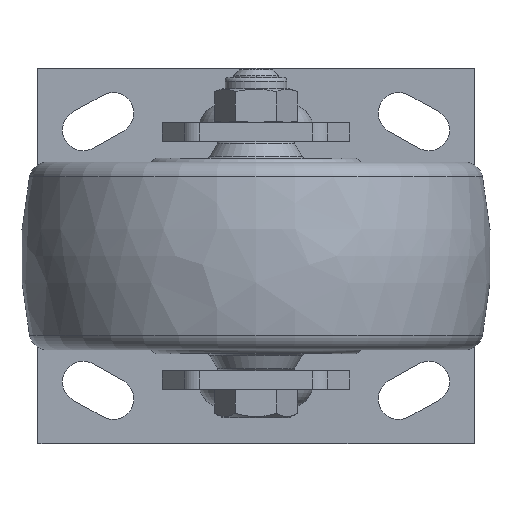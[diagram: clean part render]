
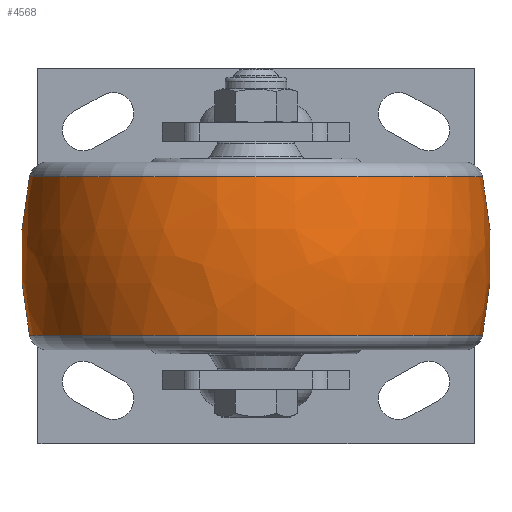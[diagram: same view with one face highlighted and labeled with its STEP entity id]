
A CAD part, front view. The second image highlights one B-rep face of the part: STEP entity #4568.
In plain terms, the highlighted free-form (B-spline) face has degree [3, 3] with [7, 4] control points.
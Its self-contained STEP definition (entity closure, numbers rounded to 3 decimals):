
#3874=CARTESIAN_POINT('',(0.,-37.5,0.));
#3875=DIRECTION('',(0.,0.,1.));
#3876=DIRECTION('',(0.211,0.978,0.));
#3877=AXIS2_PLACEMENT_3D('',#3874,#3875,#3876);
#3879=CARTESIAN_POINT('',(0.,37.5,0.));
#3880=DIRECTION('',(0.,0.,-1.));
#3881=DIRECTION('',(0.211,-0.978,0.));
#3882=AXIS2_PLACEMENT_3D('',#3879,#3880,#3881);
#3884=CARTESIAN_POINT('',(21.053,0.,0.));
#3885=DIRECTION('',(-1.,0.,0.));
#3886=DIRECTION('',(0.,1.,0.));
#3887=AXIS2_PLACEMENT_3D('',#3884,#3885,#3886);
#3899=CARTESIAN_POINT('',(-21.053,0.,0.));
#3900=DIRECTION('',(-1.,0.,0.));
#3901=DIRECTION('',(0.,1.,0.));
#3902=AXIS2_PLACEMENT_3D('',#3899,#3900,#3901);
#4371=CARTESIAN_POINT('',(21.053,60.259,0.));
#4372=CARTESIAN_POINT('',(-21.053,60.259,0.));
#4373=VERTEX_POINT('',#4371);
#4374=VERTEX_POINT('',#4372);
#4431=CARTESIAN_POINT('',(21.053,-60.259,
0.));
#4432=CARTESIAN_POINT('',(-21.053,-60.259,
0.));
#4433=VERTEX_POINT('',#4431);
#4434=VERTEX_POINT('',#4432);
#4531=CARTESIAN_POINT('',(-21.881,-59.958,
3.772));
#4532=CARTESIAN_POINT('',(-7.414,-63.196,
3.976));
#4533=CARTESIAN_POINT('',(7.414,-63.196,3.976));
#4534=CARTESIAN_POINT('',(21.881,-59.958,3.772));
#4535=CARTESIAN_POINT('',(-21.881,-62.28,
-33.126));
#4536=CARTESIAN_POINT('',(-7.414,-65.643,
-34.915));
#4537=CARTESIAN_POINT('',(7.414,-65.643,
-34.915));
#4538=CARTESIAN_POINT('',(21.881,-62.28,
-33.126));
#4539=CARTESIAN_POINT('',(-21.881,-36.971,
-60.077));
#4540=CARTESIAN_POINT('',(-7.414,-38.968,
-63.321));
#4541=CARTESIAN_POINT('',(7.414,-38.968,
-63.321));
#4542=CARTESIAN_POINT('',(21.881,-36.971,
-60.077));
#4543=CARTESIAN_POINT('',(-21.881,0.,
-60.077));
#4544=CARTESIAN_POINT('',(-7.414,0.,
-63.321));
#4545=CARTESIAN_POINT('',(7.414,0.,
-63.321));
#4546=CARTESIAN_POINT('',(21.881,0.,
-60.077));
#4547=CARTESIAN_POINT('',(-21.881,36.971,
-60.077));
#4548=CARTESIAN_POINT('',(-7.414,38.968,
-63.321));
#4549=CARTESIAN_POINT('',(7.414,38.968,-63.321));
#4550=CARTESIAN_POINT('',(21.881,36.971,-60.077));
#4551=CARTESIAN_POINT('',(-21.881,62.28,
-33.126));
#4552=CARTESIAN_POINT('',(-7.414,65.643,
-34.915));
#4553=CARTESIAN_POINT('',(7.414,65.643,-34.915));
#4554=CARTESIAN_POINT('',(21.881,62.28,-33.126));
#4555=CARTESIAN_POINT('',(-21.881,59.958,3.772));
#4556=CARTESIAN_POINT('',(-7.414,63.196,3.976));
#4557=CARTESIAN_POINT('',(7.414,63.196,3.976));
#4558=CARTESIAN_POINT('',(21.881,59.958,3.772));
#4559=(BOUNDED_SURFACE()B_SPLINE_SURFACE(3,3,((#4531,#4532,#4533,#4534),(#4535,
#4536,#4537,#4538),(#4539,#4540,#4541,#4542),(#4543,#4544,#4545,#4546),(#4547,
#4548,#4549,#4550),(#4551,#4552,#4553,#4554),(#4555,#4556,#4557,#4558)),
.UNSPECIFIED.,.F.,.F.,.F.)B_SPLINE_SURFACE_WITH_KNOTS((4,3,4),(4,4),(0.,1.,
2.),(0.,1.),.UNSPECIFIED.)GEOMETRIC_REPRESENTATION_ITEM()RATIONAL_B_SPLINE_SURFACE(((1.202,1.182,1.182,1.202),(
0.949,0.934,0.934,0.949),(
0.949,0.934,0.934,0.949),(
1.202,1.182,1.182,1.202),(
0.949,0.934,0.934,0.949),(
0.949,0.934,0.934,0.949),(
1.202,1.182,1.182,1.202)))REPRESENTATION_ITEM('')SURFACE());
#4560=ORIENTED_EDGE('',*,*,#4520,.T.);
#4562=ORIENTED_EDGE('',*,*,#4561,.T.);
#4563=ORIENTED_EDGE('',*,*,#4524,.F.);
#4565=ORIENTED_EDGE('',*,*,#4564,.F.);
#4566=EDGE_LOOP('',(#4560,#4562,#4563,#4565));
#4567=FACE_OUTER_BOUND('',#4566,.F.);
#3878=CIRCLE('',#3877,100.);
#3883=CIRCLE('',#3882,100.);
#3888=CIRCLE('',#3887,60.259);
#3903=CIRCLE('',#3902,60.259);
#4520=EDGE_CURVE('',#4373,#4374,#3878,.T.);
#4524=EDGE_CURVE('',#4433,#4434,#3883,.T.);
#4561=EDGE_CURVE('',#4374,#4434,#3903,.T.);
#4564=EDGE_CURVE('',#4373,#4433,#3888,.T.);
#4568=ADVANCED_FACE('',(#4567),#4559,.T.);
